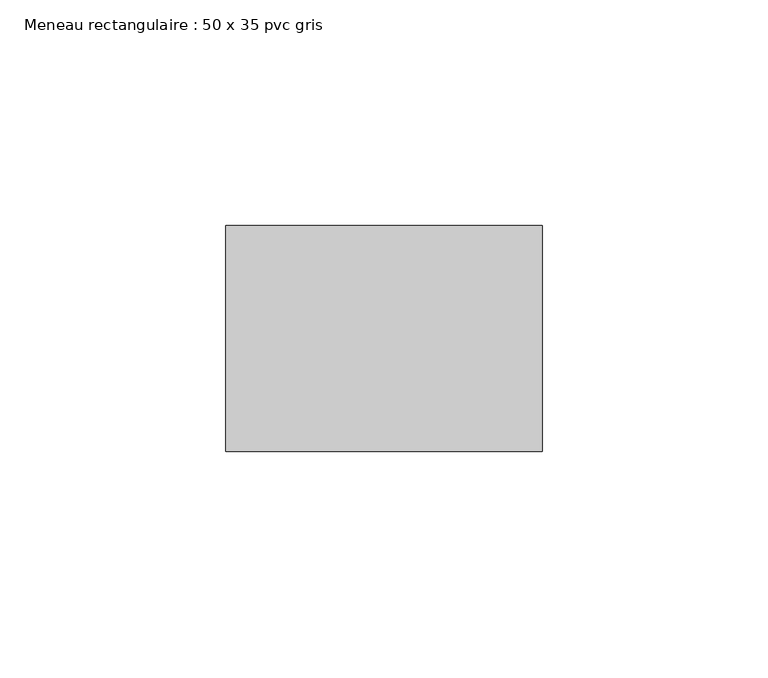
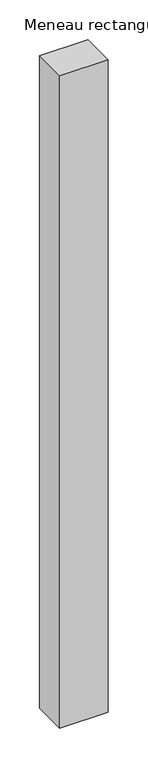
"""IFC4 building model written with IfcOpenShell, lengths in millimetres: member geometry, Meneau rectangulaire : 50 x 35 pvc gris."""

from ifc_helpers import new_model, si_unit, frame, origin, place, context, project, spatial, polyline, outline, extrude, source, transform, mapped, element, save


def meneau_rectangulaire_50_x_35_pvc_gris_dc123360(model_context):
    return source(origin(), model_context, "Body", "SweptSolid", [
        extrude(outline(polyline([(35.0, 0.0), (35.0, -50.0), (-35.0, -50.0), (-35.0, 0.0), (35.0, 0.0)])), frame((0.0, 0.0, -996.4778931), z_axis=(0.0, 0.0, 1.0), x_axis=(1.0, 0.0, 0.0)), (0.0, 0.0, 1.0), 996.4778931),
    ])


if __name__ == "__main__":
    model = new_model("IFC4")
    model_context = context("Model", 3, world=origin())
    ifc_project = project(units=[si_unit("LENGTHUNIT", "METRE", prefix="MILLI")], contexts=[model_context])
    site = spatial("IfcSite", under=ifc_project)
    building = spatial("IfcBuilding", under=site)
    placement = place(None, origin())
    meneau_rectangulaire_50_x_35_pvc_gris_shape = meneau_rectangulaire_50_x_35_pvc_gris_dc123360(model_context)
    element("IfcMember", 1, ObjectType="Meneau rectangulaire : 50 x 35 pvc gris", at=placement, inside=building, context=model_context, shape_type="MappedRepresentation", body=[
        mapped(meneau_rectangulaire_50_x_35_pvc_gris_shape, transform((0.0, 0.0, 0.0), x_axis=(1.0, 0.0, 0.0), y_axis=(0.0, 1.0, 0.0), z_axis=(0.0, 0.0, 1.0))),
    ])
    save(model, "model.ifc")
